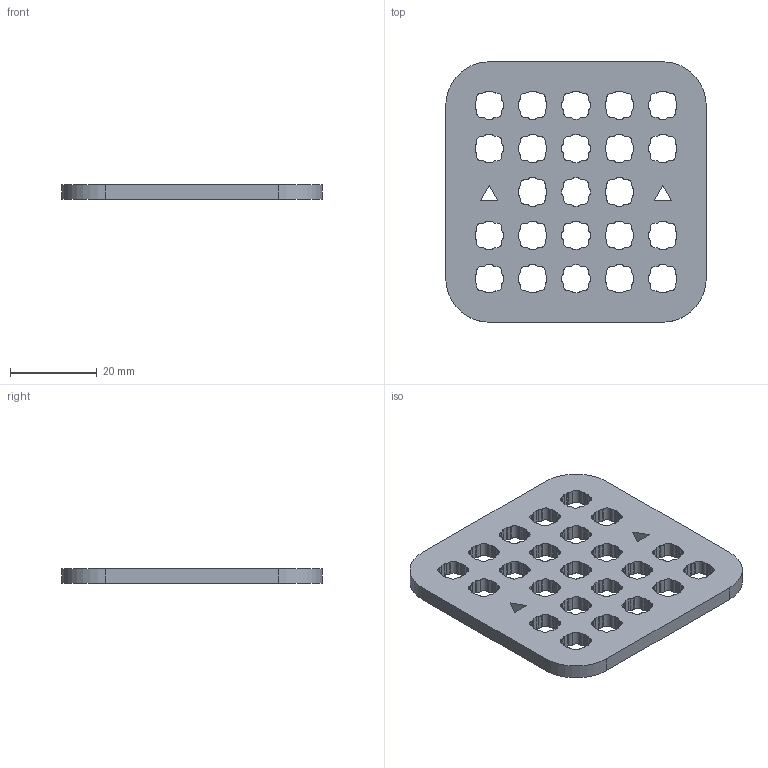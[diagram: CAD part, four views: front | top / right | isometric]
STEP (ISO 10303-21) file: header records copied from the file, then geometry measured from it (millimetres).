
FILE_DESCRIPTION(('CATIA V5 STEP Exchange'),'2;1');
FILE_NAME('C:\Users\zhook\Desktop\stp files\S2-Laser cut cavities for stencil mold.stp','2023-08-19T19:14:16+00:00',('none'),('none'),'CATIA Version 5 Release 21 GA (IN-10)','CATIA V5 STEP AP203','none');
FILE_SCHEMA(('CONFIG_CONTROL_DESIGN'));
Length unit declared in the file: millimetre
Products named in the file (1): chip
Bounding box: 60 x 60 x 3.33 mm (x, y, z)
Volume: 9025.2 mm3; surface area: 7908.9 mm2
Topology: 1 solids, 1 shells, 756 faces, 2350 edges, 1596 vertices
Faces by surface type: cylinder 464, plane 292
Entity records: 25465 total; most frequent: ORIENTED_EDGE 4700, CARTESIAN_POINT 4628, DIRECTION 3712, EDGE_CURVE 2350, AXIS2_PLACEMENT_3D 1610, VERTEX_POINT 1596, VECTOR 1422, LINE 1422
